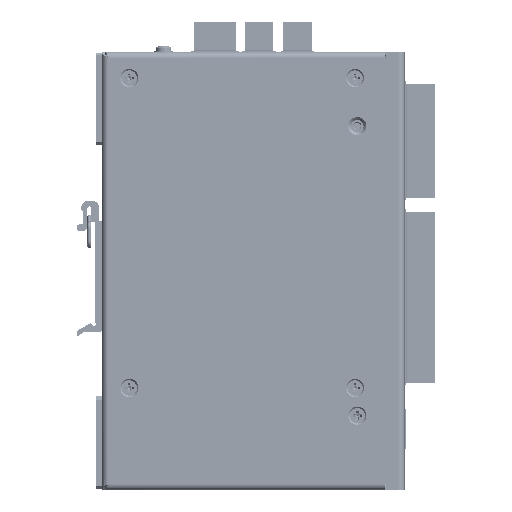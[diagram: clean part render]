
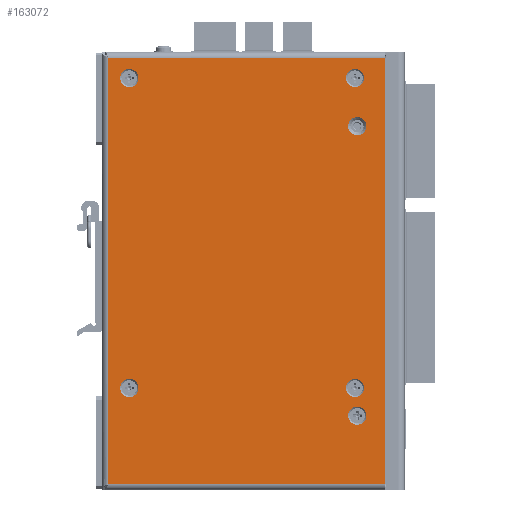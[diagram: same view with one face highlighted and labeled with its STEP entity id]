
A CAD part, left-side view. The second image highlights one B-rep face of the part: STEP entity #163072.
In plain terms, the highlighted planar face has unit normal (-1, 0, 0) as drawn and (0, 0, -1) by its records, which use the part's own axes.
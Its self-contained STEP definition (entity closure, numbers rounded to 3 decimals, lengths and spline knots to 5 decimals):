
#7440=CIRCLE('',#177631,0.00325);
#7442=CIRCLE('',#177634,0.00325);
#7444=CIRCLE('',#177637,0.00325);
#7449=CIRCLE('',#177645,0.00325);
#7450=CIRCLE('',#177646,0.00325);
#7451=CIRCLE('',#177647,0.00325);
#52926=ORIENTED_EDGE('',*,*,#76471,.T.);
#52927=ORIENTED_EDGE('',*,*,#76469,.T.);
#52928=ORIENTED_EDGE('',*,*,#76467,.T.);
#52929=ORIENTED_EDGE('',*,*,#76483,.T.);
#52930=ORIENTED_EDGE('',*,*,#76484,.T.);
#52931=ORIENTED_EDGE('',*,*,#76485,.F.);
#52932=ORIENTED_EDGE('',*,*,#76463,.T.);
#52933=ORIENTED_EDGE('',*,*,#76486,.T.);
#52934=ORIENTED_EDGE('',*,*,#76487,.T.);
#52935=ORIENTED_EDGE('',*,*,#76488,.T.);
#76463=EDGE_CURVE('',#91636,#91606,#109995,.T.);
#76467=EDGE_CURVE('',#91638,#91638,#7440,.T.);
#76469=EDGE_CURVE('',#91640,#91640,#7442,.T.);
#76471=EDGE_CURVE('',#91642,#91642,#7444,.T.);
#76483=EDGE_CURVE('',#91606,#91652,#110004,.T.);
#76484=EDGE_CURVE('',#91652,#91653,#110005,.T.);
#76485=EDGE_CURVE('',#91636,#91653,#110006,.T.);
#76486=EDGE_CURVE('',#91654,#91654,#7449,.T.);
#76487=EDGE_CURVE('',#91655,#91655,#7450,.T.);
#76488=EDGE_CURVE('',#91656,#91656,#7451,.T.);
#91606=VERTEX_POINT('',#279211);
#91636=VERTEX_POINT('',#279344);
#91638=VERTEX_POINT('',#279352);
#91640=VERTEX_POINT('',#279357);
#91642=VERTEX_POINT('',#279362);
#91652=VERTEX_POINT('',#279387);
#91653=VERTEX_POINT('',#279389);
#91654=VERTEX_POINT('',#279392);
#91655=VERTEX_POINT('',#279394);
#91656=VERTEX_POINT('',#279396);
#109995=LINE('',#279343,#128085);
#110004=LINE('',#279386,#128094);
#110005=LINE('',#279388,#128095);
#110006=LINE('',#279390,#128096);
#128085=VECTOR('',#218375,1.);
#128094=VECTOR('',#218420,1.);
#128095=VECTOR('',#218421,1.);
#128096=VECTOR('',#218422,1.);
#137720=EDGE_LOOP('',(#52926));
#137721=EDGE_LOOP('',(#52927));
#137722=EDGE_LOOP('',(#52928));
#137723=EDGE_LOOP('',(#52929,#52930,#52931,#52932));
#137724=EDGE_LOOP('',(#52933));
#137725=EDGE_LOOP('',(#52934));
#137726=EDGE_LOOP('',(#52935));
#147878=FACE_BOUND('',#137720,.T.);
#147879=FACE_BOUND('',#137721,.T.);
#147880=FACE_BOUND('',#137722,.T.);
#147881=FACE_BOUND('',#137723,.T.);
#147882=FACE_BOUND('',#137724,.T.);
#147883=FACE_BOUND('',#137725,.T.);
#147884=FACE_BOUND('',#137726,.T.);
#154819=PLANE('',#177644);
#163072=ADVANCED_FACE('',(#147878,#147879,#147880,#147881,#147882,#147883,
#147884),#154819,.T.);
#177631=AXIS2_PLACEMENT_3D('',#279351,#218385,#218386);
#177634=AXIS2_PLACEMENT_3D('',#279356,#218391,#218392);
#177637=AXIS2_PLACEMENT_3D('',#279361,#218397,#218398);
#177644=AXIS2_PLACEMENT_3D('',#279385,#218418,#218419);
#177645=AXIS2_PLACEMENT_3D('',#279391,#218423,#218424);
#177646=AXIS2_PLACEMENT_3D('',#279393,#218425,#218426);
#177647=AXIS2_PLACEMENT_3D('',#279395,#218427,#218428);
#218375=DIRECTION('',(0.,1.,0.));
#218385=DIRECTION('',(0.,0.,1.));
#218386=DIRECTION('',(1.,0.,0.));
#218391=DIRECTION('',(0.,0.,1.));
#218392=DIRECTION('',(1.,0.,0.));
#218397=DIRECTION('',(0.,0.,1.));
#218398=DIRECTION('',(1.,0.,0.));
#218418=DIRECTION('',(0.,0.,-1.));
#218419=DIRECTION('',(-1.,0.,0.));
#218420=DIRECTION('',(1.,0.,0.));
#218421=DIRECTION('',(0.,-1.,0.));
#218422=DIRECTION('',(1.,0.,0.));
#218423=DIRECTION('',(0.,0.,1.));
#218424=DIRECTION('',(1.,0.,0.));
#218425=DIRECTION('',(0.,0.,1.));
#218426=DIRECTION('',(1.,0.,0.));
#218427=DIRECTION('',(0.,0.,1.));
#218428=DIRECTION('',(1.,0.,0.));
#279211=CARTESIAN_POINT('',(-0.06231,0.04857,0.));
#279343=CARTESIAN_POINT('',(-0.06231,0.04831,0.));
#279344=CARTESIAN_POINT('',(-0.06231,-0.05026,0.));
#279351=CARTESIAN_POINT('',(-0.05525,0.04102,0.));
#279352=CARTESIAN_POINT('',(-0.052,0.04102,0.));
#279356=CARTESIAN_POINT('',(-0.05525,-0.03944,0.));
#279357=CARTESIAN_POINT('',(-0.052,-0.03944,0.));
#279361=CARTESIAN_POINT('',(-0.0381,-0.04023,0.));
#279362=CARTESIAN_POINT('',(-0.03485,-0.04023,0.));
#279385=CARTESIAN_POINT('',(0.0036,0.28302,0.));
#279386=CARTESIAN_POINT('',(0.06205,0.04857,0.));
#279387=CARTESIAN_POINT('',(0.08933,0.04857,0.));
#279388=CARTESIAN_POINT('',(0.08933,-0.05054,0.));
#279389=CARTESIAN_POINT('',(0.08933,-0.05026,0.));
#279390=CARTESIAN_POINT('',(0.16564,-0.05026,0.));
#279391=CARTESIAN_POINT('',(0.05524,-0.03944,0.));
#279392=CARTESIAN_POINT('',(0.05849,-0.03944,0.));
#279393=CARTESIAN_POINT('',(0.06513,-0.04023,0.));
#279394=CARTESIAN_POINT('',(0.06838,-0.04023,0.));
#279395=CARTESIAN_POINT('',(0.05524,0.04102,0.));
#279396=CARTESIAN_POINT('',(0.05849,0.04102,0.));
